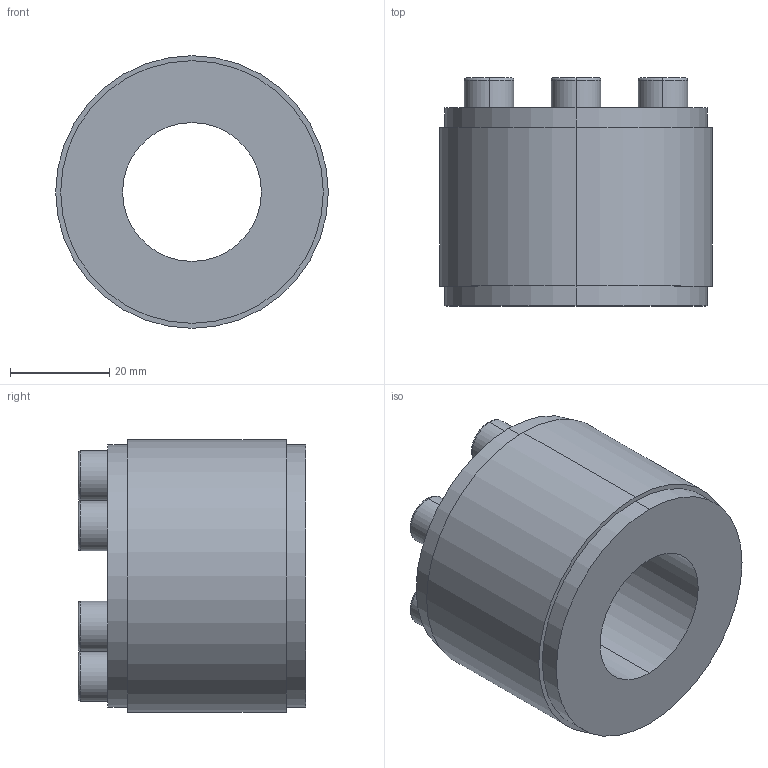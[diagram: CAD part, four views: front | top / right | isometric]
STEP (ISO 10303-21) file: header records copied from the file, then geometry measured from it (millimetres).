
FILE_DESCRIPTION (( 'STEP AP203' ), '1' );
FILE_NAME ('PL-D1 28-55.STEP', '2021-10-22T08:53:00', ( '' ), ( '' ), 'SwSTEP 2.0', 'SolidWorks 2018', '' );
FILE_SCHEMA (( 'CONFIG_CONTROL_DESIGN' ));
Length unit declared in the file: millimetre
Products named in the file (1): PL-D1 28-55
Bounding box: 55 x 46 x 55 mm (x, y, z)
Volume: 71473.8 mm3; surface area: 15301.6 mm2
Topology: 1 solids, 1 shells, 84 faces, 192 edges, 124 vertices
Faces by surface type: plane 52, cylinder 20, torus 12
Entity records: 2445 total; most frequent: DIRECTION 426, CARTESIAN_POINT 401, ORIENTED_EDGE 384, EDGE_CURVE 192, AXIS2_PLACEMENT_3D 149, VECTOR 128, LINE 128, VERTEX_POINT 124
